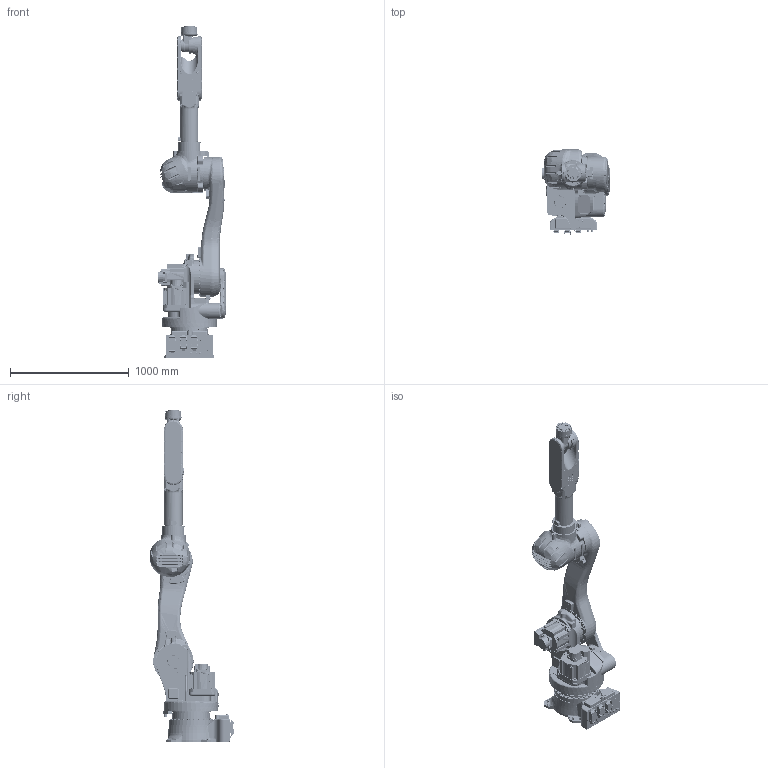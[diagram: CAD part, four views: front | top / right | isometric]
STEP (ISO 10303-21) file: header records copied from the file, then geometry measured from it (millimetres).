
FILE_DESCRIPTION(('CATIA V5 STEP Exchange'),'2;1');
FILE_NAME('D:\モデリング\☆☆☆STEP\RS\RS030_050_080\RS050N-B001_RARAS_200312\3RS050N-B001_200312\軽量化\J3調整\Part\RS030N-B001\RS030N-B001.stp','2020-04-23T00:23:00+00:00',('none'),('none'),'CATIA Version 5-6 Release 2016 SP6 HF14','CATIA V5 STEP AP203','none');
FILE_SCHEMA(('CONFIG_CONTROL_DESIGN'));
Products named in the file (1): RS030N-B001
Assembly tree (7 placements, depth 2):
  RS030N-B001
    #57
    #34493
    #94652
    #131095
    #173489
    #236588
    #251586
Bounding box: 571 x 713.75 x 2795 mm (x, y, z)
Volume: 194371004 mm3; surface area: 5624789.2 mm2
Topology: 10 solids, 10 shells, 5875 faces, 14502 edges, 8988 vertices
Faces by surface type: cylinder 2203, plane 1870, bspline 1027, torus 352, cone 325, sphere 45, extrusion 36, revolution 17
Entity records: 253372 total; most frequent: CARTESIAN_POINT 132235, ORIENTED_EDGE 28522, DIRECTION 17460, EDGE_CURVE 14261, VERTEX_POINT 8988, AXIS2_PLACEMENT_3D 8471, EDGE_LOOP 6513, ADVANCED_FACE 5875
